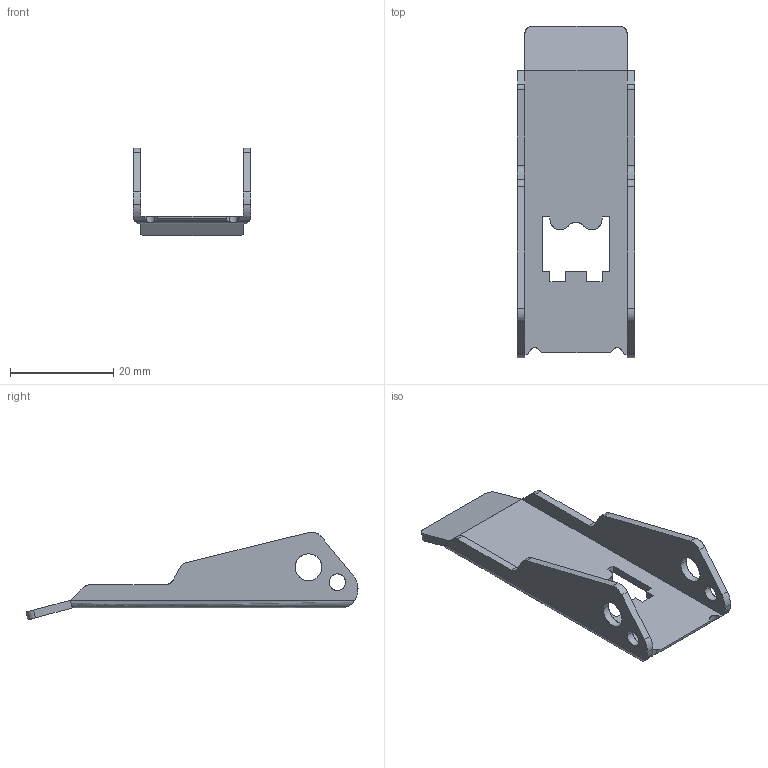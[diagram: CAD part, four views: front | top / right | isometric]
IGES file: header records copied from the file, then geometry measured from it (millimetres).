
Start section: SolidWorks IGES FILE using analytic representation for surfaces
Global section: file name: C:\Documents and Settings\lecoutey\Bureau\GR 62\62.011.00.IGS; native system: SolidWorks 2004 by SolidWorks Corporation; preprocessor: Version 5.3; author: lecoutey; date: 050330.161017; units: millimetre
Bounding box: 22.8 x 64.4 x 17 mm (x, y, z)
Surface area: 4450.6 mm2 (no closed solid volume)
Topology: 0 solids, 0 shells, 134 faces, 1382 edges, 1382 vertices
Faces by surface type: bspline 71, revolution 63
